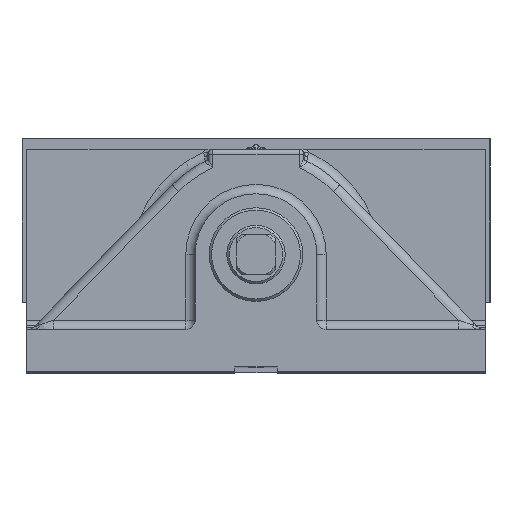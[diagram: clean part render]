
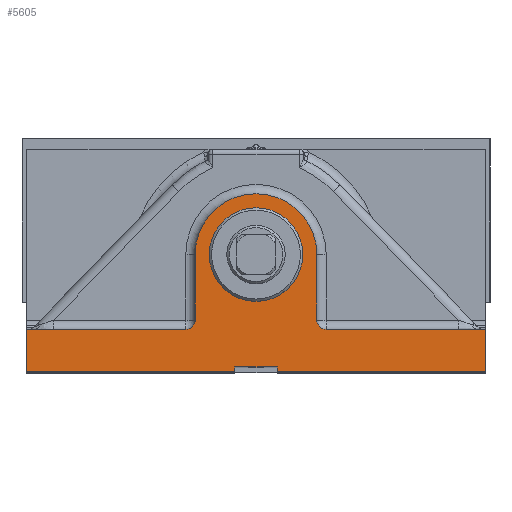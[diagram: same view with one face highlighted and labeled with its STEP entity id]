
A CAD part, top view. The second image highlights one B-rep face of the part: STEP entity #5605.
In plain terms, the highlighted planar face has unit normal (0, 0, 1).
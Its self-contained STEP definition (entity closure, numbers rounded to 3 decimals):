
#350=FACE_BOUND('',#1048,.T.);
#425=PLANE('',#6206);
#698=FACE_OUTER_BOUND('',#1047,.T.);
#1047=EDGE_LOOP('',(#4553,#4554,#4555,#4556,#4557,#4558,#4559,#4560,#4561,
#4562,#4563,#4564,#4565,#4566));
#1048=EDGE_LOOP('',(#4567));
#1231=LINE('',#8200,#1690);
#1235=LINE('',#8209,#1694);
#1239=LINE('',#8216,#1698);
#1241=LINE('',#8220,#1700);
#1252=LINE('',#8245,#1711);
#1305=LINE('',#8891,#1764);
#1325=LINE('',#9024,#1784);
#1343=LINE('',#9331,#1802);
#1362=LINE('',#9565,#1821);
#1415=LINE('',#10187,#1874);
#1416=LINE('',#10190,#1875);
#1690=VECTOR('',#6514,10.);
#1694=VECTOR('',#6520,10.);
#1698=VECTOR('',#6526,10.);
#1700=VECTOR('',#6530,10.);
#1711=VECTOR('',#6547,10.);
#1764=VECTOR('',#6758,10.);
#1784=VECTOR('',#6822,10.);
#1802=VECTOR('',#6952,10.);
#1821=VECTOR('',#7049,10.);
#1874=VECTOR('',#7330,10.);
#1875=VECTOR('',#7333,10.);
#2222=CIRCLE('',#6005,4.);
#2250=CIRCLE('',#6086,4.);
#2290=CIRCLE('',#6184,20.);
#2298=CIRCLE('',#6204,26.);
#2381=VERTEX_POINT('',#8198);
#2382=VERTEX_POINT('',#8199);
#2385=VERTEX_POINT('',#8207);
#2386=VERTEX_POINT('',#8208);
#2389=VERTEX_POINT('',#8219);
#2400=VERTEX_POINT('',#8243);
#2491=VERTEX_POINT('',#8890);
#2520=VERTEX_POINT('',#9022);
#2529=VERTEX_POINT('',#9072);
#2530=VERTEX_POINT('',#9073);
#2567=VERTEX_POINT('',#9559);
#2568=VERTEX_POINT('',#9561);
#2633=VERTEX_POINT('',#10150);
#2641=VERTEX_POINT('',#10185);
#2642=VERTEX_POINT('',#10189);
#2892=EDGE_CURVE('',#2381,#2382,#1231,.T.);
#2896=EDGE_CURVE('',#2385,#2386,#1235,.T.);
#2900=EDGE_CURVE('',#2386,#2381,#1239,.T.);
#2902=EDGE_CURVE('',#2385,#2389,#1241,.T.);
#2915=EDGE_CURVE('',#2400,#2382,#1252,.T.);
#3044=EDGE_CURVE('',#2389,#2491,#1305,.T.);
#3084=EDGE_CURVE('',#2520,#2400,#1325,.T.);
#3096=EDGE_CURVE('',#2529,#2530,#2222,.T.);
#3146=EDGE_CURVE('',#2491,#2529,#1343,.T.);
#3182=EDGE_CURVE('',#2567,#2568,#2250,.T.);
#3184=EDGE_CURVE('',#2568,#2520,#1362,.T.);
#3297=EDGE_CURVE('',#2633,#2633,#2290,.T.);
#3315=EDGE_CURVE('',#2641,#2567,#1415,.T.);
#3316=EDGE_CURVE('',#2530,#2642,#1416,.T.);
#3318=EDGE_CURVE('',#2642,#2641,#2298,.T.);
#4553=ORIENTED_EDGE('',*,*,#2892,.T.);
#4554=ORIENTED_EDGE('',*,*,#2915,.F.);
#4555=ORIENTED_EDGE('',*,*,#3084,.F.);
#4556=ORIENTED_EDGE('',*,*,#3184,.F.);
#4557=ORIENTED_EDGE('',*,*,#3182,.F.);
#4558=ORIENTED_EDGE('',*,*,#3315,.F.);
#4559=ORIENTED_EDGE('',*,*,#3318,.F.);
#4560=ORIENTED_EDGE('',*,*,#3316,.F.);
#4561=ORIENTED_EDGE('',*,*,#3096,.F.);
#4562=ORIENTED_EDGE('',*,*,#3146,.F.);
#4563=ORIENTED_EDGE('',*,*,#3044,.F.);
#4564=ORIENTED_EDGE('',*,*,#2902,.F.);
#4565=ORIENTED_EDGE('',*,*,#2896,.T.);
#4566=ORIENTED_EDGE('',*,*,#2900,.T.);
#4567=ORIENTED_EDGE('',*,*,#3297,.T.);
#5605=ADVANCED_FACE('',(#698,#350),#425,.T.);
#6005=AXIS2_PLACEMENT_3D('',#9074,#6849,#6850);
#6086=AXIS2_PLACEMENT_3D('',#9562,#7044,#7045);
#6184=AXIS2_PLACEMENT_3D('',#10151,#7284,#7285);
#6204=AXIS2_PLACEMENT_3D('',#10193,#7337,#7338);
#6206=AXIS2_PLACEMENT_3D('',#10196,#7342,#7343);
#6514=DIRECTION('',(0.,-1.,0.));
#6520=DIRECTION('',(0.,1.,0.));
#6526=DIRECTION('',(1.,0.,0.));
#6530=DIRECTION('',(-1.,0.,0.));
#6547=DIRECTION('',(-1.,0.,0.));
#6758=DIRECTION('',(0.,1.,0.));
#6822=DIRECTION('',(0.,-1.,0.));
#6849=DIRECTION('center_axis',(0.,0.,1.));
#6850=DIRECTION('ref_axis',(0.707,-0.707,0.));
#6952=DIRECTION('',(1.,0.,0.));
#7044=DIRECTION('center_axis',(0.,0.,1.));
#7045=DIRECTION('ref_axis',(-0.707,-0.707,0.));
#7049=DIRECTION('',(1.,0.,0.));
#7284=DIRECTION('center_axis',(0.,0.,-1.));
#7285=DIRECTION('ref_axis',(0.,1.,0.));
#7330=DIRECTION('',(0.,-1.,0.));
#7333=DIRECTION('',(0.,1.,0.));
#7337=DIRECTION('center_axis',(0.,0.,-1.));
#7338=DIRECTION('ref_axis',(1.,0.,0.));
#7342=DIRECTION('center_axis',(0.,0.,1.));
#7343=DIRECTION('ref_axis',(0.,-1.,0.));
#8198=CARTESIAN_POINT('',(9.,2.,89.5));
#8199=CARTESIAN_POINT('',(9.,0.,89.5));
#8200=CARTESIAN_POINT('',(9.,9.,89.5));
#8207=CARTESIAN_POINT('',(-9.,0.,89.5));
#8208=CARTESIAN_POINT('',(-9.,2.,89.5));
#8209=CARTESIAN_POINT('',(-9.,10.,89.5));
#8216=CARTESIAN_POINT('',(4.5,2.,89.5));
#8219=CARTESIAN_POINT('',(-98.,0.,89.5));
#8220=CARTESIAN_POINT('',(0.,0.,89.5));
#8243=CARTESIAN_POINT('',(98.,0.,89.5));
#8245=CARTESIAN_POINT('',(0.,0.,89.5));
#8890=CARTESIAN_POINT('',(-98.,18.,89.5));
#8891=CARTESIAN_POINT('',(-98.,18.,89.5));
#9022=CARTESIAN_POINT('',(98.,18.,89.5));
#9024=CARTESIAN_POINT('',(98.,18.,89.5));
#9072=CARTESIAN_POINT('',(-30.,18.,89.5));
#9073=CARTESIAN_POINT('',(-26.,22.,89.5));
#9074=CARTESIAN_POINT('Origin',(-30.,22.,89.5));
#9331=CARTESIAN_POINT('',(0.,18.,89.5));
#9559=CARTESIAN_POINT('',(26.,22.,89.5));
#9561=CARTESIAN_POINT('',(30.,18.,89.5));
#9562=CARTESIAN_POINT('Origin',(30.,22.,89.5));
#9565=CARTESIAN_POINT('',(0.,18.,89.5));
#10150=CARTESIAN_POINT('',(0.,30.,89.5));
#10151=CARTESIAN_POINT('Origin',(0.,50.,89.5));
#10185=CARTESIAN_POINT('',(26.,50.,89.5));
#10187=CARTESIAN_POINT('',(26.,32.5,89.5));
#10189=CARTESIAN_POINT('',(-26.,50.,89.5));
#10190=CARTESIAN_POINT('',(-26.,48.5,89.5));
#10193=CARTESIAN_POINT('Origin',(0.,50.,89.5));
#10196=CARTESIAN_POINT('Origin',(0.,18.,89.5));
